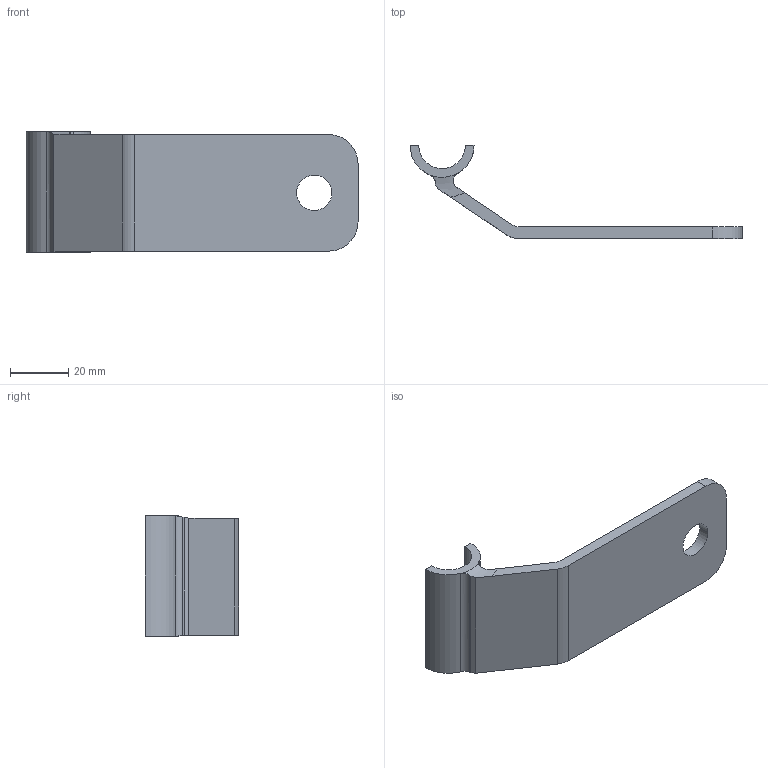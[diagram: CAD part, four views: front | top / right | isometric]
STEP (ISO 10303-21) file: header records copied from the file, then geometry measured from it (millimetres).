
FILE_DESCRIPTION((''),'2;1');
FILE_NAME('FE_RG_ST','2020-03-16T',('pkloninger'),(''),'CREO PARAMETRIC BY PTC INC, 2017020','CREO PARAMETRIC BY PTC INC, 2017020','');
FILE_SCHEMA(('CONFIG_CONTROL_DESIGN'));
Length unit declared in the file: millimetre
Products named in the file (1): FE_RG_ST
Bounding box: 114 x 32 x 41.4 mm (x, y, z)
Volume: 21034 mm3; surface area: 12563.6 mm2
Topology: 1 solids, 4 shells, 29 faces, 80 edges, 56 vertices
Faces by surface type: plane 14, cylinder 13, bspline 2
Entity records: 1053 total; most frequent: CARTESIAN_POINT 269, DIRECTION 152, ORIENTED_EDGE 148, EDGE_CURVE 80, AXIS2_PLACEMENT_3D 56, VERTEX_POINT 56, VECTOR 40, LINE 40
